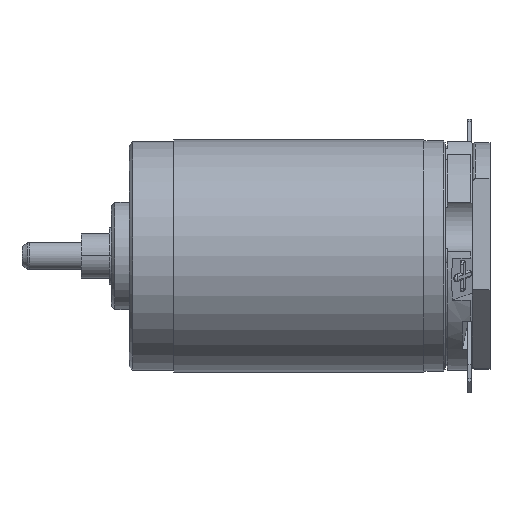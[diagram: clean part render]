
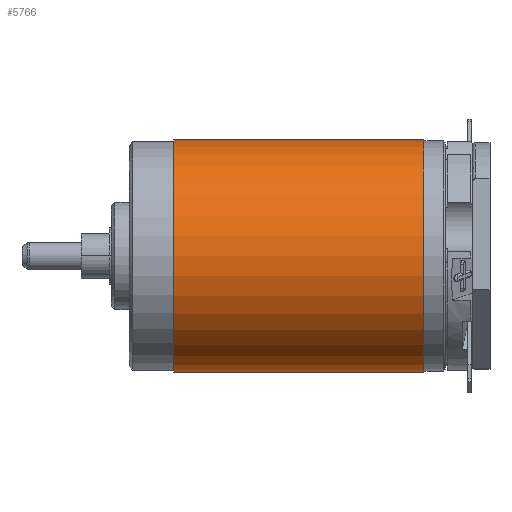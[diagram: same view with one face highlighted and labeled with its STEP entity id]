
A CAD part, top view. The second image highlights one B-rep face of the part: STEP entity #5766.
In plain terms, the highlighted cylindrical face has radius 6.5 mm (diameter 13 mm), a partial arc.
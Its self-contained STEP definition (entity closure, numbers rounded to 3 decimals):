
#79=CARTESIAN_POINT('',(2.5,0.,0.));
#80=DIRECTION('',(1.,0.,0.));
#81=DIRECTION('',(0.,1.,0.));
#82=AXIS2_PLACEMENT_3D('',#79,#80,#81);
#87=DIRECTION('',(-1.,0.,0.));
#88=VECTOR('',#87,14.);
#89=CARTESIAN_POINT('',(16.5,6.5,0.));
#90=LINE('',#89,#88);
#94=DIRECTION('',(-1.,0.,0.));
#95=VECTOR('',#94,14.);
#96=CARTESIAN_POINT('',(16.5,-6.5,0.));
#97=LINE('',#96,#95);
#109=CARTESIAN_POINT('',(16.5,0.,0.));
#110=DIRECTION('',(1.,0.,0.));
#111=DIRECTION('',(0.,1.,0.));
#112=AXIS2_PLACEMENT_3D('',#109,#110,#111);
#4987=CARTESIAN_POINT('',(16.5,6.5,0.));
#4988=CARTESIAN_POINT('',(2.5,6.5,0.));
#4989=VERTEX_POINT('',#4987);
#4990=VERTEX_POINT('',#4988);
#4991=CARTESIAN_POINT('',(16.5,-6.5,0.));
#4992=CARTESIAN_POINT('',(2.5,-6.5,0.));
#4993=VERTEX_POINT('',#4991);
#4994=VERTEX_POINT('',#4992);
#5754=CARTESIAN_POINT('',(-0.885,0.,0.));
#5755=DIRECTION('',(1.,0.,0.));
#5756=DIRECTION('',(0.,-1.,0.));
#5757=AXIS2_PLACEMENT_3D('',#5754,#5755,#5756);
#5758=CYLINDRICAL_SURFACE('',#5757,6.5);
#5759=ORIENTED_EDGE('',*,*,#5744,.F.);
#5761=ORIENTED_EDGE('',*,*,#5760,.T.);
#5762=ORIENTED_EDGE('',*,*,#5747,.T.);
#5763=ORIENTED_EDGE('',*,*,#5728,.F.);
#5764=EDGE_LOOP('',(#5759,#5761,#5762,#5763));
#5765=FACE_OUTER_BOUND('',#5764,.F.);
#5766=ADVANCED_FACE('',(#5765),#5758,.T.);
#83=CIRCLE('',#82,6.5);
#113=CIRCLE('',#112,6.5);
#5728=EDGE_CURVE('',#4990,#4994,#83,.T.);
#5744=EDGE_CURVE('',#4989,#4990,#90,.T.);
#5747=EDGE_CURVE('',#4993,#4994,#97,.T.);
#5760=EDGE_CURVE('',#4989,#4993,#113,.T.);
